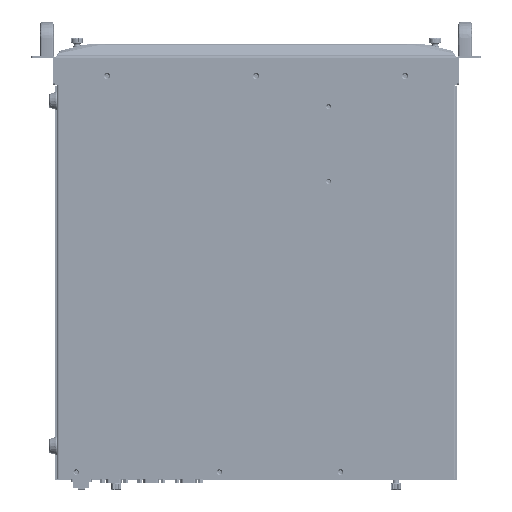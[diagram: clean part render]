
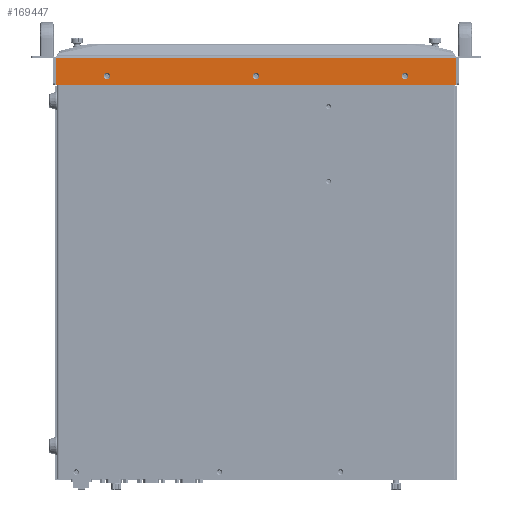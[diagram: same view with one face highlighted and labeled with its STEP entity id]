
A CAD part, front view. The second image highlights one B-rep face of the part: STEP entity #169447.
In plain terms, the highlighted planar face has unit normal (0, -1, 0).
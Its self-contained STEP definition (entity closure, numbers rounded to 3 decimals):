
#166064=DIRECTION('',(0.,0.,-1.));
#166065=VECTOR('',#166064,29.4);
#166066=CARTESIAN_POINT('',(-214.85,-88.45,-0.1));
#166067=LINE('',#166066,#166065);
#166101=DIRECTION('',(-1.,0.,0.));
#166102=VECTOR('',#166101,429.7);
#166103=CARTESIAN_POINT('',(214.85,-88.45,-0.1));
#166104=LINE('',#166103,#166102);
#166129=CARTESIAN_POINT('',(-160.,-88.45,-19.5));
#166130=DIRECTION('',(0.,-1.,0.));
#166131=DIRECTION('',(-1.,0.,0.));
#166132=AXIS2_PLACEMENT_3D('',#166129,#166130,#166131);
#166137=CARTESIAN_POINT('',(-160.,-88.45,-19.5));
#166138=DIRECTION('',(0.,-1.,0.));
#166139=DIRECTION('',(0.,0.,-1.));
#166140=AXIS2_PLACEMENT_3D('',#166137,#166138,#166139);
#166145=CARTESIAN_POINT('',(-160.,-88.45,-19.5));
#166146=DIRECTION('',(0.,-1.,0.));
#166147=DIRECTION('',(1.,0.,0.));
#166148=AXIS2_PLACEMENT_3D('',#166145,#166146,#166147);
#166153=CARTESIAN_POINT('',(-160.,-88.45,-19.5));
#166154=DIRECTION('',(0.,-1.,0.));
#166155=DIRECTION('',(0.,0.,1.));
#166156=AXIS2_PLACEMENT_3D('',#166153,#166154,#166155);
#166161=CARTESIAN_POINT('',(0.,-88.45,-19.5));
#166162=DIRECTION('',(0.,-1.,0.));
#166163=DIRECTION('',(-1.,0.,0.));
#166164=AXIS2_PLACEMENT_3D('',#166161,#166162,#166163);
#166169=CARTESIAN_POINT('',(0.,-88.45,-19.5));
#166170=DIRECTION('',(0.,-1.,0.));
#166171=DIRECTION('',(0.,0.,-1.));
#166172=AXIS2_PLACEMENT_3D('',#166169,#166170,#166171);
#166177=CARTESIAN_POINT('',(0.,-88.45,-19.5));
#166178=DIRECTION('',(0.,-1.,0.));
#166179=DIRECTION('',(1.,0.,0.));
#166180=AXIS2_PLACEMENT_3D('',#166177,#166178,#166179);
#166185=CARTESIAN_POINT('',(0.,-88.45,-19.5));
#166186=DIRECTION('',(0.,-1.,0.));
#166187=DIRECTION('',(0.,0.,1.));
#166188=AXIS2_PLACEMENT_3D('',#166185,#166186,#166187);
#166193=CARTESIAN_POINT('',(160.,-88.45,-19.5));
#166194=DIRECTION('',(0.,-1.,0.));
#166195=DIRECTION('',(-1.,0.,0.));
#166196=AXIS2_PLACEMENT_3D('',#166193,#166194,#166195);
#166201=CARTESIAN_POINT('',(160.,-88.45,-19.5));
#166202=DIRECTION('',(0.,-1.,0.));
#166203=DIRECTION('',(0.,0.,-1.));
#166204=AXIS2_PLACEMENT_3D('',#166201,#166202,#166203);
#166209=CARTESIAN_POINT('',(160.,-88.45,-19.5));
#166210=DIRECTION('',(0.,-1.,0.));
#166211=DIRECTION('',(1.,0.,0.));
#166212=AXIS2_PLACEMENT_3D('',#166209,#166210,#166211);
#166217=CARTESIAN_POINT('',(160.,-88.45,-19.5));
#166218=DIRECTION('',(0.,-1.,0.));
#166219=DIRECTION('',(0.,0.,1.));
#166220=AXIS2_PLACEMENT_3D('',#166217,#166218,#166219);
#166225=DIRECTION('',(0.,0.,1.));
#166226=VECTOR('',#166225,29.4);
#166227=CARTESIAN_POINT('',(214.85,-88.45,-29.5));
#166228=LINE('',#166227,#166226);
#166239=DIRECTION('',(1.,0.,0.));
#166240=VECTOR('',#166239,429.7);
#166241=CARTESIAN_POINT('',(-214.85,-88.45,-29.5));
#166242=LINE('',#166241,#166240);
#168083=CARTESIAN_POINT('',(-214.85,-88.45,-0.1));
#168084=VERTEX_POINT('',#168083);
#168085=CARTESIAN_POINT('',(-214.85,-88.45,-29.5));
#168086=VERTEX_POINT('',#168085);
#168087=CARTESIAN_POINT('',(214.85,-88.45,-0.1));
#168088=VERTEX_POINT('',#168087);
#168091=CARTESIAN_POINT('',(214.85,-88.45,-29.5));
#168092=VERTEX_POINT('',#168091);
#168093=CARTESIAN_POINT('',(-160.,-88.45,-23.));
#168094=CARTESIAN_POINT('',(-156.5,-88.45,-19.5));
#168095=VERTEX_POINT('',#168093);
#168096=VERTEX_POINT('',#168094);
#168097=CARTESIAN_POINT('',(-163.5,-88.45,-19.5));
#168098=VERTEX_POINT('',#168097);
#168099=CARTESIAN_POINT('',(-160.,-88.45,-16.));
#168100=VERTEX_POINT('',#168099);
#168101=CARTESIAN_POINT('',(0.,-88.45,-23.));
#168102=CARTESIAN_POINT('',(3.5,-88.45,-19.5));
#168103=VERTEX_POINT('',#168101);
#168104=VERTEX_POINT('',#168102);
#168105=CARTESIAN_POINT('',(-3.5,-88.45,-19.5));
#168106=VERTEX_POINT('',#168105);
#168107=CARTESIAN_POINT('',(0.,-88.45,-16.));
#168108=VERTEX_POINT('',#168107);
#168109=CARTESIAN_POINT('',(160.,-88.45,-23.));
#168110=CARTESIAN_POINT('',(163.5,-88.45,-19.5));
#168111=VERTEX_POINT('',#168109);
#168112=VERTEX_POINT('',#168110);
#168113=CARTESIAN_POINT('',(156.5,-88.45,-19.5));
#168114=VERTEX_POINT('',#168113);
#168115=CARTESIAN_POINT('',(160.,-88.45,-16.));
#168116=VERTEX_POINT('',#168115);
#169404=CARTESIAN_POINT('',(-214.85,-88.45,1.));
#169405=DIRECTION('',(0.,-1.,0.));
#169406=DIRECTION('',(-1.,0.,0.));
#169407=AXIS2_PLACEMENT_3D('',#169404,#169405,#169406);
#169408=PLANE('',#169407);
#169409=ORIENTED_EDGE('',*,*,#169367,.F.);
#169410=ORIENTED_EDGE('',*,*,#169392,.F.);
#169412=ORIENTED_EDGE('',*,*,#169411,.F.);
#169414=ORIENTED_EDGE('',*,*,#169413,.F.);
#169415=EDGE_LOOP('',(#169409,#169410,#169412,#169414));
#169416=FACE_OUTER_BOUND('',#169415,.F.);
#169418=ORIENTED_EDGE('',*,*,#169417,.T.);
#169420=ORIENTED_EDGE('',*,*,#169419,.T.);
#169422=ORIENTED_EDGE('',*,*,#169421,.T.);
#169424=ORIENTED_EDGE('',*,*,#169423,.T.);
#169425=EDGE_LOOP('',(#169418,#169420,#169422,#169424));
#169426=FACE_BOUND('',#169425,.F.);
#169428=ORIENTED_EDGE('',*,*,#169427,.T.);
#169430=ORIENTED_EDGE('',*,*,#169429,.T.);
#169432=ORIENTED_EDGE('',*,*,#169431,.T.);
#169434=ORIENTED_EDGE('',*,*,#169433,.T.);
#169435=EDGE_LOOP('',(#169428,#169430,#169432,#169434));
#169436=FACE_BOUND('',#169435,.F.);
#169438=ORIENTED_EDGE('',*,*,#169437,.T.);
#169440=ORIENTED_EDGE('',*,*,#169439,.T.);
#169442=ORIENTED_EDGE('',*,*,#169441,.T.);
#169444=ORIENTED_EDGE('',*,*,#169443,.T.);
#169445=EDGE_LOOP('',(#169438,#169440,#169442,#169444));
#169446=FACE_BOUND('',#169445,.F.);
#169447=ADVANCED_FACE('',(#169416,#169426,#169436,#169446),#169408,.T.);
#166133=CIRCLE('',#166132,3.5);
#166141=CIRCLE('',#166140,3.5);
#166149=CIRCLE('',#166148,3.5);
#166157=CIRCLE('',#166156,3.5);
#166165=CIRCLE('',#166164,3.5);
#166173=CIRCLE('',#166172,3.5);
#166181=CIRCLE('',#166180,3.5);
#166189=CIRCLE('',#166188,3.5);
#166197=CIRCLE('',#166196,3.5);
#166205=CIRCLE('',#166204,3.5);
#166213=CIRCLE('',#166212,3.5);
#166221=CIRCLE('',#166220,3.5);
#169367=EDGE_CURVE('',#168084,#168086,#166067,.T.);
#169392=EDGE_CURVE('',#168088,#168084,#166104,.T.);
#169411=EDGE_CURVE('',#168092,#168088,#166228,.T.);
#169413=EDGE_CURVE('',#168086,#168092,#166242,.T.);
#169417=EDGE_CURVE('',#168098,#168095,#166133,.T.);
#169419=EDGE_CURVE('',#168095,#168096,#166141,.T.);
#169421=EDGE_CURVE('',#168096,#168100,#166149,.T.);
#169423=EDGE_CURVE('',#168100,#168098,#166157,.T.);
#169427=EDGE_CURVE('',#168106,#168103,#166165,.T.);
#169429=EDGE_CURVE('',#168103,#168104,#166173,.T.);
#169431=EDGE_CURVE('',#168104,#168108,#166181,.T.);
#169433=EDGE_CURVE('',#168108,#168106,#166189,.T.);
#169437=EDGE_CURVE('',#168114,#168111,#166197,.T.);
#169439=EDGE_CURVE('',#168111,#168112,#166205,.T.);
#169441=EDGE_CURVE('',#168112,#168116,#166213,.T.);
#169443=EDGE_CURVE('',#168116,#168114,#166221,.T.);
